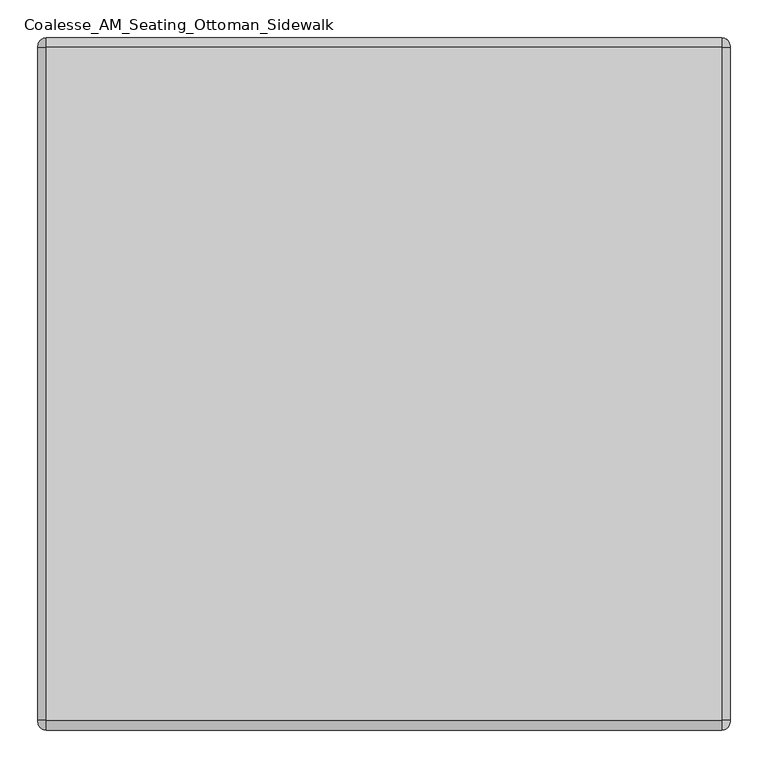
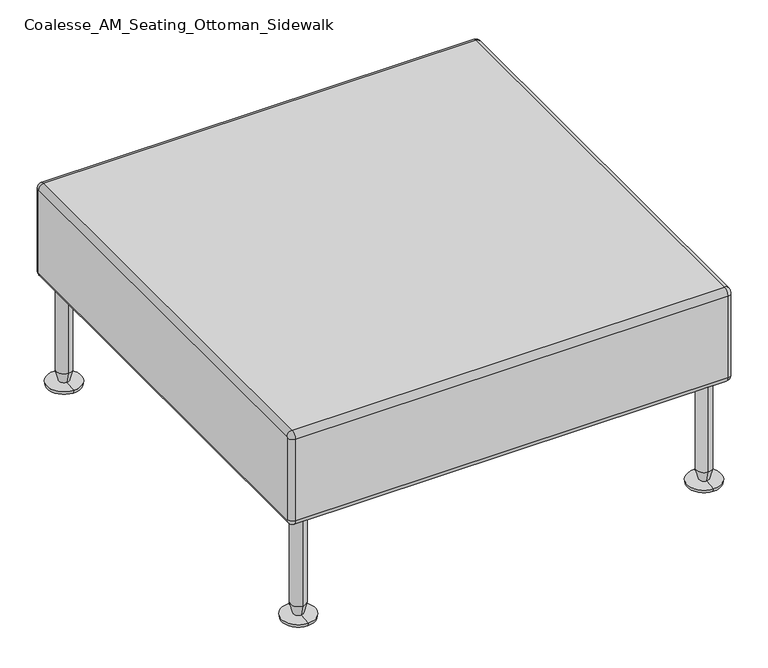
"""IFC4 building model written with IfcOpenShell, lengths in millimetres: furniture geometry, Coalesse_AM_Seating_Ottoman_Sidewalk : 36D x 36W."""

from ifc_helpers import new_model, si_unit, point, frame, origin, place, context, project, spatial, polyline, circle_curve, ellipse_curve, trimmed, source, transform, mapped, element, save
from ifc_brep_helpers import plane_surface, cylinder_surface, revolved_surface, advanced_brep


def coalesse_am_seating_ottoman_sidewalk_d7b272b0(model_context):
    return source(origin(), model_context, "Body", "AdvancedBrep", [
        advanced_brep(
        [(465.8089794, -146.3050929, 420.6875), (465.8089794, -144.7175929, 419.1), (465.8089794, -144.7175929, 241.3), (465.8089794, -146.3050929, 239.7125), (465.8089794, -1035.3050929, 239.7125), (465.8089794, -1036.8925929, 241.3), (465.8089794, -1036.8925929, 419.1), (465.8089794, -1035.3050929, 420.6875), (1380.2089794, -1035.3050929, 420.6875), (1380.2089794, -1036.8925929, 419.1), (1380.2089794, -1036.8925929, 241.3), (1380.2089794, -1035.3050929, 239.7125), (1380.2089794, -146.3050929, 239.7125), (1380.2089794, -144.7175929, 241.3), (1380.2089794, -144.7175929, 419.1), (1380.2089794, -146.3050929, 420.6875), (476.9214794, -146.3050929, 431.8), (476.9214794, -1035.3050929, 431.8), (1369.0964794, -1035.3050929, 431.8), (1369.0964794, -146.3050929, 431.8), (476.9214794, -133.6050929, 419.1), (1369.0964794, -133.6050929, 419.1), (476.9214794, -133.6050929, 241.3), (1369.0964794, -133.6050929, 241.3), (476.9214794, -146.3050929, 228.6), (1369.0964794, -146.3050929, 228.6), (476.9214794, -1035.3050929, 228.6), (1369.0964794, -1035.3050929, 228.6), (476.9214794, -1048.0050929, 241.3), (1369.0964794, -1048.0050929, 241.3), (476.9214794, -1048.0050929, 419.1), (1369.0964794, -1048.0050929, 419.1)],
        [
            (0, 1, circle_curve(frame((465.8089794, -146.3050929, 419.1), z_axis=(-1.0, 0.0, 0.0), x_axis=(0.0, 0.0, 1.0)), 1.5875)),
            (1, 2),
            (2, 3, circle_curve(frame((465.8089794, -146.3050929, 241.3), z_axis=(-1.0, 0.0, 0.0), x_axis=(0.0, 1.0, 0.0)), 1.5875)),
            (3, 4),
            (4, 5, circle_curve(frame((465.8089794, -1035.3050929, 241.3), z_axis=(-1.0, 0.0, 0.0), x_axis=(0.0, 0.0, -1.0)), 1.5875)),
            (5, 6),
            (6, 7, circle_curve(frame((465.8089794, -1035.3050929, 419.1), z_axis=(-1.0, 0.0, 0.0), x_axis=(0.0, -1.0, 0.0)), 1.5875)),
            (7, 0),
            (8, 9, circle_curve(frame((1380.2089794, -1035.3050929, 419.1), z_axis=(1.0, 0.0, 0.0), x_axis=(0.0, 0.0, 1.0)), 1.5875)),
            (9, 10),
            (10, 11, circle_curve(frame((1380.2089794, -1035.3050929, 241.3), z_axis=(1.0, 0.0, 0.0), x_axis=(0.0, -1.0, 0.0)), 1.5875)),
            (11, 12),
            (12, 13, circle_curve(frame((1380.2089794, -146.3050929, 241.3), z_axis=(1.0, 0.0, 0.0), x_axis=(0.0, 0.0, -1.0)), 1.5875)),
            (13, 14),
            (14, 15, circle_curve(frame((1380.2089794, -146.3050929, 419.1), z_axis=(1.0, 0.0, 0.0), x_axis=(0.0, 1.0, 0.0)), 1.5875)),
            (15, 8),
            (16, 17),
            (17, 18),
            (18, 19),
            (19, 16),
            (20, 16, circle_curve(frame((476.9214794, -146.3050929, 419.1), z_axis=(1.0, 0.0, 0.0), x_axis=(0.0, -1.0, 0.0)), 12.7)),
            (19, 21, circle_curve(frame((1369.0964794, -146.3050929, 419.1), z_axis=(-1.0, 0.0, 0.0), x_axis=(0.0, -1.0, 0.0)), 12.7)),
            (21, 20),
            (22, 20),
            (21, 23),
            (23, 22),
            (24, 22, circle_curve(frame((476.9214794, -146.3050929, 241.3), z_axis=(1.0, 0.0, 0.0), x_axis=(0.0, -1.0, 0.0)), 12.7)),
            (23, 25, circle_curve(frame((1369.0964794, -146.3050929, 241.3), z_axis=(-1.0, 0.0, 0.0), x_axis=(0.0, -1.0, 0.0)), 12.7)),
            (25, 24),
            (26, 24),
            (25, 27),
            (27, 26),
            (28, 26, circle_curve(frame((476.9214794, -1035.3050929, 241.3), z_axis=(1.0, 0.0, 0.0), x_axis=(0.0, -1.0, 0.0)), 12.7)),
            (27, 29, circle_curve(frame((1369.0964794, -1035.3050929, 241.3), z_axis=(-1.0, 0.0, 0.0), x_axis=(0.0, -1.0, 0.0)), 12.7)),
            (29, 28),
            (30, 28),
            (29, 31),
            (31, 30),
            (17, 30, circle_curve(frame((476.9214794, -1035.3050929, 419.1), z_axis=(1.0, 0.0, 0.0), x_axis=(0.0, -1.0, 0.0)), 12.7)),
            (31, 18, circle_curve(frame((1369.0964794, -1035.3050929, 419.1), z_axis=(-1.0, 0.0, 0.0), x_axis=(0.0, -1.0, 0.0)), 12.7)),
            (20, 1, circle_curve(frame((476.9214794, -144.7175929, 419.1), z_axis=(0.0, 0.0, 1.0), x_axis=(0.0, -1.0, 0.0)), 11.1125)),
            (0, 16, circle_curve(frame((476.9214794, -146.3050929, 420.6875), z_axis=(0.0, 1.0, 0.0), x_axis=(0.0, 0.0, -1.0)), 11.1125)),
            (22, 2, circle_curve(frame((476.9214794, -144.7175929, 241.3), z_axis=(0.0, 0.0, 1.0), x_axis=(0.0, -1.0, 0.0)), 11.1125)),
            (24, 3, circle_curve(frame((476.9214794, -146.3050929, 239.7125), z_axis=(0.0, 1.0, 0.0), x_axis=(0.0, 0.0, 1.0)), 11.1125)),
            (26, 4, circle_curve(frame((476.9214794, -1035.3050929, 239.7125), z_axis=(0.0, 1.0, 0.0), x_axis=(0.0, 0.0, 1.0)), 11.1125)),
            (28, 5, circle_curve(frame((476.9214794, -1036.8925929, 241.3), z_axis=(0.0, 0.0, -1.0), x_axis=(0.0, 1.0, 0.0)), 11.1125)),
            (30, 6, circle_curve(frame((476.9214794, -1036.8925929, 419.1), z_axis=(0.0, 0.0, -1.0), x_axis=(0.0, 1.0, 0.0)), 11.1125)),
            (17, 7, circle_curve(frame((476.9214794, -1035.3050929, 420.6875), z_axis=(0.0, -1.0, 0.0), x_axis=(0.0, 0.0, -1.0)), 11.1125)),
            (31, 9, circle_curve(frame((1369.0964794, -1036.8925929, 419.1), z_axis=(0.0, 0.0, 1.0), x_axis=(0.0, -1.0, 0.0)), 11.1125)),
            (8, 18, circle_curve(frame((1369.0964794, -1035.3050929, 420.6875), z_axis=(0.0, -1.0, 0.0), x_axis=(0.0, 0.0, 1.0)), 11.1125)),
            (29, 10, circle_curve(frame((1369.0964794, -1036.8925929, 241.3), z_axis=(0.0, 0.0, 1.0), x_axis=(0.0, -1.0, 0.0)), 11.1125)),
            (27, 11, circle_curve(frame((1369.0964794, -1035.3050929, 239.7125), z_axis=(0.0, -1.0, 0.0), x_axis=(0.0, 0.0, -1.0)), 11.1125)),
            (25, 12, circle_curve(frame((1369.0964794, -146.3050929, 239.7125), z_axis=(0.0, -1.0, 0.0), x_axis=(0.0, 0.0, -1.0)), 11.1125)),
            (23, 13, circle_curve(frame((1369.0964794, -144.7175929, 241.3), z_axis=(0.0, 0.0, -1.0), x_axis=(0.0, 1.0, 0.0)), 11.1125)),
            (21, 14, circle_curve(frame((1369.0964794, -144.7175929, 419.1), z_axis=(0.0, 0.0, -1.0), x_axis=(0.0, 1.0, 0.0)), 11.1125)),
            (19, 15, circle_curve(frame((1369.0964794, -146.3050929, 420.6875), z_axis=(0.0, 1.0, 0.0), x_axis=(0.0, 0.0, 1.0)), 11.1125)),
        ],
        [
            plane_surface(frame((465.8089794, -146.3050929, 431.8), z_axis=(-1.0, 0.0, 0.0), x_axis=(0.0, 1.0, 0.0))),
            plane_surface(frame((1380.2089794, -146.3050929, 431.8), z_axis=(1.0, 0.0, 0.0), x_axis=(0.0, -1.0, 0.0))),
            plane_surface(frame((465.8089794, -1035.3050929, 431.8), z_axis=(0.0, 0.0, 1.0), x_axis=(1.0, 0.0, 0.0))),
            cylinder_surface(frame((1380.2089794, -146.3050929, 419.1), z_axis=(-1.0, 0.0, 0.0), x_axis=(0.0, -1.0, 0.0)), 12.7),
            plane_surface(frame((465.8089794, -133.6050929, 419.1), z_axis=(0.0, 1.0, 0.0), x_axis=(1.0, 0.0, 0.0))),
            cylinder_surface(frame((1380.2089794, -146.3050929, 241.3), z_axis=(-1.0, 0.0, 0.0), x_axis=(0.0, -1.0, 0.0)), 12.7),
            plane_surface(frame((465.8089794, -146.3050929, 228.6), z_axis=(0.0, 0.0, -1.0), x_axis=(1.0, 0.0, 0.0))),
            cylinder_surface(frame((1380.2089794, -1035.3050929, 241.3), z_axis=(-1.0, 0.0, 0.0), x_axis=(0.0, -1.0, 0.0)), 12.7),
            plane_surface(frame((465.8089794, -1048.0050929, 241.3), z_axis=(0.0, -1.0, 0.0), x_axis=(1.0, 0.0, 0.0))),
            cylinder_surface(frame((1380.2089794, -1035.3050929, 419.1), z_axis=(-1.0, 0.0, 0.0), x_axis=(0.0, -1.0, 0.0)), 12.7),
            revolved_surface(trimmed(ellipse_curve(frame((476.9214794, -146.3050929, 420.6875), z_axis=(0.0, -1.0, 0.0), x_axis=(0.0, 0.0, -1.0)), 11.1125, 11.1125), [point((476.9214794, -146.3050929, 431.8))], [point((465.8089794, -146.3050929, 420.6875))], True, "CARTESIAN"), (465.8089794, -146.3050929, 419.1), (-1.0, 0.0, 0.0)),
            cylinder_surface(frame((476.9214794, -144.7175929, 419.1), z_axis=(0.0, 0.0, -1.0), x_axis=(0.0, -1.0, 0.0)), 11.1125),
            revolved_surface(trimmed(ellipse_curve(frame((476.9214794, -144.7175929, 241.3), z_axis=(0.0, 0.0, 1.0), x_axis=(0.0, -1.0, 0.0)), 11.1125, 11.1125), [point((476.9214794, -133.6050929, 241.3))], [point((465.8089794, -144.7175929, 241.3))], True, "CARTESIAN"), (465.8089794, -146.3050929, 241.3), (-1.0, 0.0, 0.0)),
            cylinder_surface(frame((476.9214794, -146.3050929, 239.7125), z_axis=(0.0, -1.0, 0.0), x_axis=(0.0, 0.0, 1.0)), 11.1125),
            revolved_surface(trimmed(ellipse_curve(frame((476.9214794, -1035.3050929, 239.7125), z_axis=(0.0, 1.0, 0.0), x_axis=(0.0, 0.0, 1.0)), 11.1125, 11.1125), [point((476.9214794, -1035.3050929, 228.6))], [point((465.8089794, -1035.3050929, 239.7125))], True, "CARTESIAN"), (465.8089794, -1035.3050929, 241.3), (-1.0, 0.0, 0.0)),
            cylinder_surface(frame((476.9214794, -1036.8925929, 241.3), z_axis=(0.0, 0.0, 1.0), x_axis=(0.0, 1.0, 0.0)), 11.1125),
            revolved_surface(trimmed(ellipse_curve(frame((476.9214794, -1036.8925929, 419.1), z_axis=(0.0, 0.0, -1.0), x_axis=(0.0, 1.0, 0.0)), 11.1125, 11.1125), [point((476.9214794, -1048.0050929, 419.1))], [point((465.8089794, -1036.8925929, 419.1))], True, "CARTESIAN"), (465.8089794, -1035.3050929, 419.1), (-1.0, 0.0, 0.0)),
            cylinder_surface(frame((476.9214794, -1035.3050929, 420.6875), z_axis=(0.0, 1.0, 0.0), x_axis=(0.0, 0.0, -1.0)), 11.1125),
            revolved_surface(trimmed(ellipse_curve(frame((1369.0964794, -1035.3050929, 420.6875), z_axis=(0.0, 1.0, 0.0), x_axis=(0.0, 0.0, 1.0)), 11.1125, 11.1125), [point((1369.0964794, -1035.3050929, 431.8))], [point((1380.2089794, -1035.3050929, 420.6875))], True, "CARTESIAN"), (1380.2089794, -1035.3050929, 419.1), (1.0, 0.0, 0.0)),
            cylinder_surface(frame((1369.0964794, -1036.8925929, 419.1), z_axis=(0.0, 0.0, -1.0), x_axis=(0.0, -1.0, 0.0)), 11.1125),
            revolved_surface(trimmed(ellipse_curve(frame((1369.0964794, -1036.8925929, 241.3), z_axis=(0.0, 0.0, 1.0), x_axis=(0.0, -1.0, 0.0)), 11.1125, 11.1125), [point((1369.0964794, -1048.0050929, 241.3))], [point((1380.2089794, -1036.8925929, 241.3))], True, "CARTESIAN"), (1380.2089794, -1035.3050929, 241.3), (1.0, 0.0, 0.0)),
            cylinder_surface(frame((1369.0964794, -1035.3050929, 239.7125), z_axis=(0.0, 1.0, 0.0), x_axis=(0.0, 0.0, -1.0)), 11.1125),
            revolved_surface(trimmed(ellipse_curve(frame((1369.0964794, -146.3050929, 239.7125), z_axis=(0.0, -1.0, 0.0), x_axis=(0.0, 0.0, -1.0)), 11.1125, 11.1125), [point((1369.0964794, -146.3050929, 228.6))], [point((1380.2089794, -146.3050929, 239.7125))], True, "CARTESIAN"), (1380.2089794, -146.3050929, 241.3), (1.0, 0.0, 0.0)),
            cylinder_surface(frame((1369.0964794, -144.7175929, 241.3), z_axis=(0.0, 0.0, 1.0), x_axis=(0.0, 1.0, 0.0)), 11.1125),
            revolved_surface(trimmed(ellipse_curve(frame((1369.0964794, -144.7175929, 419.1), z_axis=(0.0, 0.0, -1.0), x_axis=(0.0, 1.0, 0.0)), 11.1125, 11.1125), [point((1369.0964794, -133.6050929, 419.1))], [point((1380.2089794, -144.7175929, 419.1))], True, "CARTESIAN"), (1380.2089794, -146.3050929, 419.1), (1.0, 0.0, 0.0)),
            cylinder_surface(frame((1369.0964794, -146.3050929, 420.6875), z_axis=(0.0, -1.0, 0.0), x_axis=(0.0, 0.0, 1.0)), 11.1125),
        ],
        [
            (0, [[1, 2, 3, 4, 5, 6, 7, 8]]),
            (1, [[9, 10, 11, 12, 13, 14, 15, 16]]),
            (2, [[17, 18, 19, 20]]),
            (3, [[21, -20, 22, 23]]),
            (4, [[24, -23, 25, 26]]),
            (5, [[27, -26, 28, 29]]),
            (6, [[30, -29, 31, 32]]),
            (7, [[33, -32, 34, 35]]),
            (8, [[36, -35, 37, 38]]),
            (9, [[39, -38, 40, -18]]),
            (10, [[41, -1, 42, -21]]),
            (11, [[-41, -24, 43, -2]]),
            (12, [[-43, -27, 44, -3]]),
            (13, [[-44, -30, 45, -4]]),
            (14, [[-45, -33, 46, -5]]),
            (15, [[-46, -36, 47, -6]]),
            (16, [[-47, -39, 48, -7]]),
            (17, [[-42, -8, -48, -17]]),
            (18, [[49, -9, 50, -40]]),
            (19, [[-49, -37, 51, -10]]),
            (20, [[-51, -34, 52, -11]]),
            (21, [[-52, -31, 53, -12]]),
            (22, [[-53, -28, 54, -13]]),
            (23, [[-54, -25, 55, -14]]),
            (24, [[-55, -22, 56, -15]]),
            (25, [[-50, -16, -56, -19]]),
        ],
    ),
        advanced_brep(
        [(1342.1089794, -187.5800929, 31.75), (1342.1089794, -155.8300929, 31.75), (1342.1089794, -155.8300929, 228.6), (1342.1089794, -187.5800929, 228.6), (1342.1089794, -181.5884463, 8.5001207), (1342.1089794, -161.8217394, 8.5001207), (1342.1089794, -206.6300929, 6.35), (1342.1089794, -136.7800929, 6.35), (1342.1089794, -205.5717596, 0.0), (1342.1089794, -137.8384262, 0.0), (1342.1089794, -171.7050929, 0.0), (1342.1089794, -171.7050929, 228.6)],
        [
            (0, 1, circle_curve(frame((1342.1089794, -171.7050929, 31.75), z_axis=(0.0, 0.0, 1.0), x_axis=(0.0, 1.0, 0.0)), 15.875)),
            (1, 2),
            (2, 3, circle_curve(frame((1342.1089794, -171.7050929, 228.6), z_axis=(0.0, 0.0, -1.0), x_axis=(0.0, 1.0, 0.0)), 15.875)),
            (3, 0),
            (1, 0, circle_curve(frame((1342.1089794, -171.7050929, 31.75), z_axis=(0.0, 0.0, 1.0), x_axis=(0.0, 1.0, 0.0)), 15.875)),
            (3, 2, circle_curve(frame((1342.1089794, -171.7050929, 228.6), z_axis=(0.0, 0.0, -1.0), x_axis=(0.0, 1.0, 0.0)), 15.875)),
            (4, 5, circle_curve(frame((1342.1089794, -171.7050929, 8.5001207), z_axis=(0.0, 0.0, 1.0), x_axis=(0.0, 1.0, 0.0)), 9.8833534)),
            (5, 1),
            (0, 4),
            (5, 4, circle_curve(frame((1342.1089794, -171.7050929, 8.5001207), z_axis=(0.0, 0.0, 1.0), x_axis=(0.0, 1.0, 0.0)), 9.8833534)),
            (6, 7, circle_curve(frame((1342.1089794, -171.7050929, 6.35), z_axis=(0.0, 0.0, 1.0), x_axis=(0.0, 1.0, 0.0)), 34.925)),
            (7, 5),
            (4, 6),
            (7, 6, circle_curve(frame((1342.1089794, -171.7050929, 6.35), z_axis=(0.0, 0.0, 1.0), x_axis=(0.0, 1.0, 0.0)), 34.925)),
            (8, 9, circle_curve(frame((1342.1089794, -171.7050929, 0.0), z_axis=(0.0, 0.0, 1.0), x_axis=(0.0, 1.0, 0.0)), 33.8666667)),
            (9, 7),
            (6, 8),
            (9, 8, circle_curve(frame((1342.1089794, -171.7050929, 0.0), z_axis=(0.0, 0.0, 1.0), x_axis=(0.0, 1.0, 0.0)), 33.8666667)),
            (10, 9),
            (8, 10),
            (2, 11),
            (11, 3),
        ],
        [
            cylinder_surface(frame((1342.1089794, -171.7050929, -95.25), z_axis=(0.0, 0.0, -1.0), x_axis=(0.0, 1.0, 0.0)), 15.875),
            revolved_surface(polyline([(1342.1089794, -155.8300929, 31.75), (1342.1089794, -161.8217394, 8.5001207)]), (1342.1089794, -171.7050929, -95.25), (0.0, 0.0, -1.0)),
            revolved_surface(polyline([(1342.1089794, -161.8217394, 8.5001207), (1342.1089794, -136.7800929, 6.35)]), (1342.1089794, -171.7050929, -95.25), (0.0, 0.0, -1.0)),
            revolved_surface(polyline([(1342.1089794, -136.7800929, 6.35), (1342.1089794, -137.8384262, 0.0)]), (1342.1089794, -171.7050929, -95.25), (0.0, 0.0, -1.0)),
            plane_surface(frame((1342.1089794, -171.7050929, 0.0), z_axis=(0.0, 0.0, -1.0), x_axis=(0.0, 1.0, 0.0))),
            plane_surface(frame((1342.1089794, -171.7050929, 228.6), z_axis=(0.0, 0.0, 1.0), x_axis=(0.0, 1.0, 0.0))),
        ],
        [
            (0, [[1, 2, 3, 4]]),
            (0, [[5, -4, 6, -2]]),
            (1, [[7, 8, -1, 9]]),
            (1, [[10, -9, -5, -8]]),
            (2, [[11, 12, -7, 13]]),
            (2, [[14, -13, -10, -12]]),
            (3, [[15, 16, -11, 17]]),
            (3, [[18, -17, -14, -16]]),
            (4, [[19, -15, 20]]),
            (4, [[-20, -18, -19]]),
            (5, [[-3, 21, 22]]),
            (5, [[-6, -22, -21]]),
        ],
    ),
        advanced_brep(
        [(503.9089794, -171.7050929, 228.6), (503.9089794, -155.8300929, 228.6), (503.9089794, -187.5800929, 228.6), (503.9089794, -205.5717596, 0.0), (503.9089794, -137.8384262, 0.0), (503.9089794, -171.7050929, 0.0), (503.9089794, -206.6300929, 6.35), (503.9089794, -136.7800929, 6.35), (503.9089794, -181.5884463, 8.5001207), (503.9089794, -161.8217394, 8.5001207), (503.9089794, -187.5800929, 31.75), (503.9089794, -155.8300929, 31.75)],
        [
            (0, 1),
            (1, 2, circle_curve(frame((503.9089794, -171.7050929, 228.6), z_axis=(0.0, 0.0, 1.0), x_axis=(0.0, 1.0, 0.0)), 15.875)),
            (2, 0),
            (2, 1, circle_curve(frame((503.9089794, -171.7050929, 228.6), z_axis=(0.0, 0.0, 1.0), x_axis=(0.0, 1.0, 0.0)), 15.875)),
            (3, 4, circle_curve(frame((503.9089794, -171.7050929, 0.0), z_axis=(0.0, 0.0, -1.0), x_axis=(0.0, 1.0, 0.0)), 33.8666667)),
            (4, 5),
            (5, 3),
            (4, 3, circle_curve(frame((503.9089794, -171.7050929, 0.0), z_axis=(0.0, 0.0, -1.0), x_axis=(0.0, 1.0, 0.0)), 33.8666667)),
            (6, 7, circle_curve(frame((503.9089794, -171.7050929, 6.35), z_axis=(0.0, 0.0, -1.0), x_axis=(0.0, 1.0, 0.0)), 34.925)),
            (7, 4),
            (3, 6),
            (7, 6, circle_curve(frame((503.9089794, -171.7050929, 6.35), z_axis=(0.0, 0.0, -1.0), x_axis=(0.0, 1.0, 0.0)), 34.925)),
            (8, 9, circle_curve(frame((503.9089794, -171.7050929, 8.5001207), z_axis=(0.0, 0.0, -1.0), x_axis=(0.0, 1.0, 0.0)), 9.8833534)),
            (9, 7),
            (6, 8),
            (9, 8, circle_curve(frame((503.9089794, -171.7050929, 8.5001207), z_axis=(0.0, 0.0, -1.0), x_axis=(0.0, 1.0, 0.0)), 9.8833534)),
            (10, 11, circle_curve(frame((503.9089794, -171.7050929, 31.75), z_axis=(0.0, 0.0, -1.0), x_axis=(0.0, 1.0, 0.0)), 15.875)),
            (11, 9),
            (8, 10),
            (11, 10, circle_curve(frame((503.9089794, -171.7050929, 31.75), z_axis=(0.0, 0.0, -1.0), x_axis=(0.0, 1.0, 0.0)), 15.875)),
            (1, 11),
            (10, 2),
        ],
        [
            plane_surface(frame((503.9089794, -171.7050929, 228.6), z_axis=(0.0, 0.0, 1.0), x_axis=(0.0, 1.0, 0.0))),
            plane_surface(frame((503.9089794, -171.7050929, 0.0), z_axis=(0.0, 0.0, -1.0), x_axis=(0.0, 1.0, 0.0))),
            revolved_surface(polyline([(503.9089794, -137.8384262, 0.0), (503.9089794, -136.7800929, 6.35)]), (503.9089794, -171.7050929, -95.25), (0.0, 0.0, 1.0)),
            revolved_surface(polyline([(503.9089794, -136.7800929, 6.35), (503.9089794, -161.8217394, 8.5001207)]), (503.9089794, -171.7050929, -95.25), (0.0, 0.0, 1.0)),
            revolved_surface(polyline([(503.9089794, -161.8217394, 8.5001207), (503.9089794, -155.8300929, 31.75)]), (503.9089794, -171.7050929, -95.25), (0.0, 0.0, 1.0)),
            cylinder_surface(frame((503.9089794, -171.7050929, -95.25), z_axis=(0.0, 0.0, 1.0), x_axis=(0.0, 1.0, 0.0)), 15.875),
        ],
        [
            (0, [[1, 2, 3]]),
            (0, [[-3, 4, -1]]),
            (1, [[5, 6, 7]]),
            (1, [[8, -7, -6]]),
            (2, [[9, 10, -5, 11]]),
            (2, [[12, -11, -8, -10]]),
            (3, [[13, 14, -9, 15]]),
            (3, [[16, -15, -12, -14]]),
            (4, [[17, 18, -13, 19]]),
            (4, [[20, -19, -16, -18]]),
            (5, [[-2, 21, -17, 22]]),
            (5, [[-4, -22, -20, -21]]),
        ],
    ),
        advanced_brep(
        [(1342.1089794, -1025.7800929, 31.75), (1342.1089794, -994.0300929, 31.75), (1342.1089794, -994.0300929, 228.6), (1342.1089794, -1025.7800929, 228.6), (1342.1089794, -1019.7884463, 8.5001207), (1342.1089794, -1000.0217394, 8.5001207), (1342.1089794, -1044.8300929, 6.35), (1342.1089794, -974.9800929, 6.35), (1342.1089794, -1043.7717596, 0.0), (1342.1089794, -976.0384262, 0.0), (1342.1089794, -1009.9050929, 0.0), (1342.1089794, -1009.9050929, 228.6)],
        [
            (0, 1, circle_curve(frame((1342.1089794, -1009.9050929, 31.75), z_axis=(0.0, 0.0, 1.0), x_axis=(0.0, 1.0, 0.0)), 15.875)),
            (1, 2),
            (2, 3, circle_curve(frame((1342.1089794, -1009.9050929, 228.6), z_axis=(0.0, 0.0, -1.0), x_axis=(0.0, 1.0, 0.0)), 15.875)),
            (3, 0),
            (1, 0, circle_curve(frame((1342.1089794, -1009.9050929, 31.75), z_axis=(0.0, 0.0, 1.0), x_axis=(0.0, 1.0, 0.0)), 15.875)),
            (3, 2, circle_curve(frame((1342.1089794, -1009.9050929, 228.6), z_axis=(0.0, 0.0, -1.0), x_axis=(0.0, 1.0, 0.0)), 15.875)),
            (4, 5, circle_curve(frame((1342.1089794, -1009.9050929, 8.5001207), z_axis=(0.0, 0.0, 1.0), x_axis=(0.0, 1.0, 0.0)), 9.8833534)),
            (5, 1),
            (0, 4),
            (5, 4, circle_curve(frame((1342.1089794, -1009.9050929, 8.5001207), z_axis=(0.0, 0.0, 1.0), x_axis=(0.0, 1.0, 0.0)), 9.8833534)),
            (6, 7, circle_curve(frame((1342.1089794, -1009.9050929, 6.35), z_axis=(0.0, 0.0, 1.0), x_axis=(0.0, 1.0, 0.0)), 34.925)),
            (7, 5),
            (4, 6),
            (7, 6, circle_curve(frame((1342.1089794, -1009.9050929, 6.35), z_axis=(0.0, 0.0, 1.0), x_axis=(0.0, 1.0, 0.0)), 34.925)),
            (8, 9, circle_curve(frame((1342.1089794, -1009.9050929, 0.0), z_axis=(0.0, 0.0, 1.0), x_axis=(0.0, 1.0, 0.0)), 33.8666667)),
            (9, 7),
            (6, 8),
            (9, 8, circle_curve(frame((1342.1089794, -1009.9050929, 0.0), z_axis=(0.0, 0.0, 1.0), x_axis=(0.0, 1.0, 0.0)), 33.8666667)),
            (10, 9),
            (8, 10),
            (2, 11),
            (11, 3),
        ],
        [
            cylinder_surface(frame((1342.1089794, -1009.9050929, -95.25), z_axis=(0.0, 0.0, -1.0), x_axis=(0.0, 1.0, 0.0)), 15.875),
            revolved_surface(polyline([(1342.1089794, -994.0300929, 31.75), (1342.1089794, -1000.0217394, 8.5001207)]), (1342.1089794, -1009.9050929, -95.25), (0.0, 0.0, -1.0)),
            revolved_surface(polyline([(1342.1089794, -1000.0217394, 8.5001207), (1342.1089794, -974.9800929, 6.35)]), (1342.1089794, -1009.9050929, -95.25), (0.0, 0.0, -1.0)),
            revolved_surface(polyline([(1342.1089794, -974.9800929, 6.35), (1342.1089794, -976.0384262, 0.0)]), (1342.1089794, -1009.9050929, -95.25), (0.0, 0.0, -1.0)),
            plane_surface(frame((1342.1089794, -1009.9050929, 0.0), z_axis=(0.0, 0.0, -1.0), x_axis=(0.0, 1.0, 0.0))),
            plane_surface(frame((1342.1089794, -1009.9050929, 228.6), z_axis=(0.0, 0.0, 1.0), x_axis=(0.0, 1.0, 0.0))),
        ],
        [
            (0, [[1, 2, 3, 4]]),
            (0, [[5, -4, 6, -2]]),
            (1, [[7, 8, -1, 9]]),
            (1, [[10, -9, -5, -8]]),
            (2, [[11, 12, -7, 13]]),
            (2, [[14, -13, -10, -12]]),
            (3, [[15, 16, -11, 17]]),
            (3, [[18, -17, -14, -16]]),
            (4, [[19, -15, 20]]),
            (4, [[-20, -18, -19]]),
            (5, [[-3, 21, 22]]),
            (5, [[-6, -22, -21]]),
        ],
    ),
        advanced_brep(
        [(503.9089794, -1009.9050929, 228.6), (503.9089794, -994.0300929, 228.6), (503.9089794, -1025.7800929, 228.6), (503.9089794, -1043.7717596, 0.0), (503.9089794, -976.0384262, 0.0), (503.9089794, -1009.9050929, 0.0), (503.9089794, -1044.8300929, 6.35), (503.9089794, -974.9800929, 6.35), (503.9089794, -1019.7884463, 8.5001207), (503.9089794, -1000.0217394, 8.5001207), (503.9089794, -1025.7800929, 31.75), (503.9089794, -994.0300929, 31.75)],
        [
            (0, 1),
            (1, 2, circle_curve(frame((503.9089794, -1009.9050929, 228.6), z_axis=(0.0, 0.0, 1.0), x_axis=(0.0, 1.0, 0.0)), 15.875)),
            (2, 0),
            (2, 1, circle_curve(frame((503.9089794, -1009.9050929, 228.6), z_axis=(0.0, 0.0, 1.0), x_axis=(0.0, 1.0, 0.0)), 15.875)),
            (3, 4, circle_curve(frame((503.9089794, -1009.9050929, 0.0), z_axis=(0.0, 0.0, -1.0), x_axis=(0.0, 1.0, 0.0)), 33.8666667)),
            (4, 5),
            (5, 3),
            (4, 3, circle_curve(frame((503.9089794, -1009.9050929, 0.0), z_axis=(0.0, 0.0, -1.0), x_axis=(0.0, 1.0, 0.0)), 33.8666667)),
            (6, 7, circle_curve(frame((503.9089794, -1009.9050929, 6.35), z_axis=(0.0, 0.0, -1.0), x_axis=(0.0, 1.0, 0.0)), 34.925)),
            (7, 4),
            (3, 6),
            (7, 6, circle_curve(frame((503.9089794, -1009.9050929, 6.35), z_axis=(0.0, 0.0, -1.0), x_axis=(0.0, 1.0, 0.0)), 34.925)),
            (8, 9, circle_curve(frame((503.9089794, -1009.9050929, 8.5001207), z_axis=(0.0, 0.0, -1.0), x_axis=(0.0, 1.0, 0.0)), 9.8833534)),
            (9, 7),
            (6, 8),
            (9, 8, circle_curve(frame((503.9089794, -1009.9050929, 8.5001207), z_axis=(0.0, 0.0, -1.0), x_axis=(0.0, 1.0, 0.0)), 9.8833534)),
            (10, 11, circle_curve(frame((503.9089794, -1009.9050929, 31.75), z_axis=(0.0, 0.0, -1.0), x_axis=(0.0, 1.0, 0.0)), 15.875)),
            (11, 9),
            (8, 10),
            (11, 10, circle_curve(frame((503.9089794, -1009.9050929, 31.75), z_axis=(0.0, 0.0, -1.0), x_axis=(0.0, 1.0, 0.0)), 15.875)),
            (1, 11),
            (10, 2),
        ],
        [
            plane_surface(frame((503.9089794, -1009.9050929, 228.6), z_axis=(0.0, 0.0, 1.0), x_axis=(0.0, 1.0, 0.0))),
            plane_surface(frame((503.9089794, -1009.9050929, 0.0), z_axis=(0.0, 0.0, -1.0), x_axis=(0.0, 1.0, 0.0))),
            revolved_surface(polyline([(503.9089794, -976.0384262, 0.0), (503.9089794, -974.9800929, 6.35)]), (503.9089794, -1009.9050929, -95.25), (0.0, 0.0, 1.0)),
            revolved_surface(polyline([(503.9089794, -974.9800929, 6.35), (503.9089794, -1000.0217394, 8.5001207)]), (503.9089794, -1009.9050929, -95.25), (0.0, 0.0, 1.0)),
            revolved_surface(polyline([(503.9089794, -1000.0217394, 8.5001207), (503.9089794, -994.0300929, 31.75)]), (503.9089794, -1009.9050929, -95.25), (0.0, 0.0, 1.0)),
            cylinder_surface(frame((503.9089794, -1009.9050929, -95.25), z_axis=(0.0, 0.0, 1.0), x_axis=(0.0, 1.0, 0.0)), 15.875),
        ],
        [
            (0, [[1, 2, 3]]),
            (0, [[-3, 4, -1]]),
            (1, [[5, 6, 7]]),
            (1, [[8, -7, -6]]),
            (2, [[9, 10, -5, 11]]),
            (2, [[12, -11, -8, -10]]),
            (3, [[13, 14, -9, 15]]),
            (3, [[16, -15, -12, -14]]),
            (4, [[17, 18, -13, 19]]),
            (4, [[20, -19, -16, -18]]),
            (5, [[-2, 21, -17, 22]]),
            (5, [[-4, -22, -20, -21]]),
        ],
    ),
    ])


if __name__ == "__main__":
    model = new_model("IFC4")
    model_context = context("Model", 3, world=origin())
    ifc_project = project(units=[si_unit("LENGTHUNIT", "METRE", prefix="MILLI")], contexts=[model_context])
    site = spatial("IfcSite", under=ifc_project)
    building = spatial("IfcBuilding", under=site)
    placement = place(None, origin())
    coalesse_am_seating_ottoman_sidewalk_shape = coalesse_am_seating_ottoman_sidewalk_d7b272b0(model_context)
    element("IfcFurniture", 1, ObjectType="Coalesse_AM_Seating_Ottoman_Sidewalk : 36D x 36W", at=placement, inside=building, context=model_context, shape_type="MappedRepresentation", body=[
        mapped(coalesse_am_seating_ottoman_sidewalk_shape, transform((0.0, 0.0, 0.0), x_axis=(1.0, 0.0, 0.0), y_axis=(0.0, 1.0, 0.0), z_axis=(0.0, 0.0, 1.0))),
    ])
    save(model, "model.ifc")
